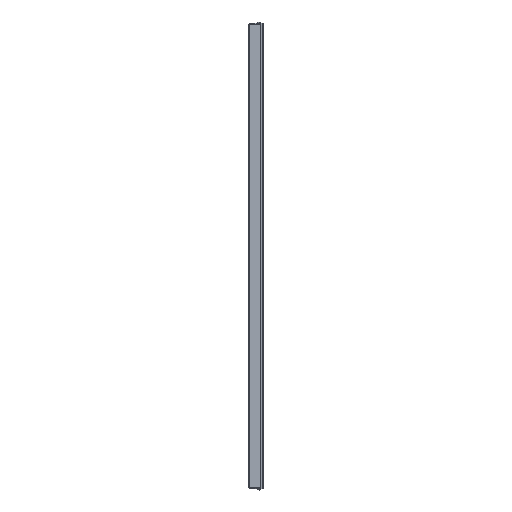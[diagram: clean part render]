
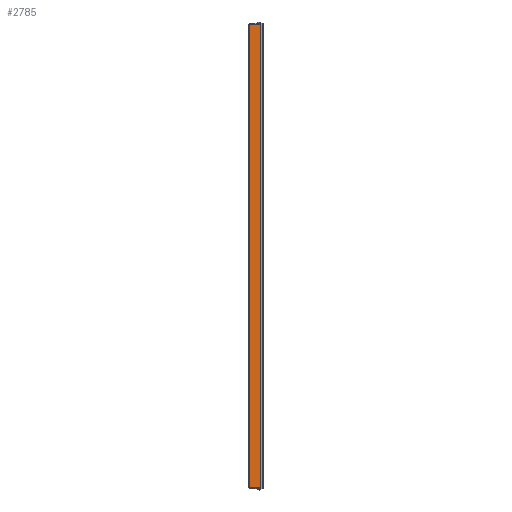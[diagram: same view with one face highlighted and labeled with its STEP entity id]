
A CAD part, left-side view. The second image highlights one B-rep face of the part: STEP entity #2785.
In plain terms, the highlighted planar face has unit normal (-1, 0, 0).
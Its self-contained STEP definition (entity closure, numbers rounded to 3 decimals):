
#45=DIRECTION('',(0.,-1.,0.));
#46=VECTOR('',#45,20.8);
#47=CARTESIAN_POINT('',(-19.,16.5,-432.));
#48=LINE('',#47,#46);
#653=DIRECTION('',(0.,0.,1.));
#654=VECTOR('',#653,864.);
#655=CARTESIAN_POINT('',(-19.,-4.3,-432.));
#656=LINE('',#655,#654);
#657=DIRECTION('',(0.,0.,1.));
#658=VECTOR('',#657,864.);
#659=CARTESIAN_POINT('',(-19.,16.5,-432.));
#660=LINE('',#659,#658);
#997=DIRECTION('',(0.,-1.,0.));
#998=VECTOR('',#997,20.8);
#999=CARTESIAN_POINT('',(-19.,16.5,432.));
#1000=LINE('',#999,#998);
#1187=CARTESIAN_POINT('',(-19.,16.5,-432.));
#1188=VERTEX_POINT('',#1187);
#1189=CARTESIAN_POINT('',(-19.,-4.3,-432.));
#1190=VERTEX_POINT('',#1189);
#1357=CARTESIAN_POINT('',(-19.,16.5,432.));
#1358=VERTEX_POINT('',#1357);
#1359=CARTESIAN_POINT('',(-19.,-4.3,432.));
#1360=VERTEX_POINT('',#1359);
#2772=CARTESIAN_POINT('',(-19.,16.5,-432.));
#2773=DIRECTION('',(-1.,0.,0.));
#2774=DIRECTION('',(0.,-1.,0.));
#2775=AXIS2_PLACEMENT_3D('',#2772,#2773,#2774);
#2776=PLANE('',#2775);
#2777=ORIENTED_EDGE('',*,*,#1572,.F.);
#2779=ORIENTED_EDGE('',*,*,#2778,.T.);
#2781=ORIENTED_EDGE('',*,*,#2780,.T.);
#2782=ORIENTED_EDGE('',*,*,#2764,.F.);
#2783=EDGE_LOOP('',(#2777,#2779,#2781,#2782));
#2784=FACE_OUTER_BOUND('',#2783,.F.);
#1572=EDGE_CURVE('',#1188,#1190,#48,.T.);
#2764=EDGE_CURVE('',#1190,#1360,#656,.T.);
#2778=EDGE_CURVE('',#1188,#1358,#660,.T.);
#2780=EDGE_CURVE('',#1358,#1360,#1000,.T.);
#2785=ADVANCED_FACE('',(#2784),#2776,.T.);
